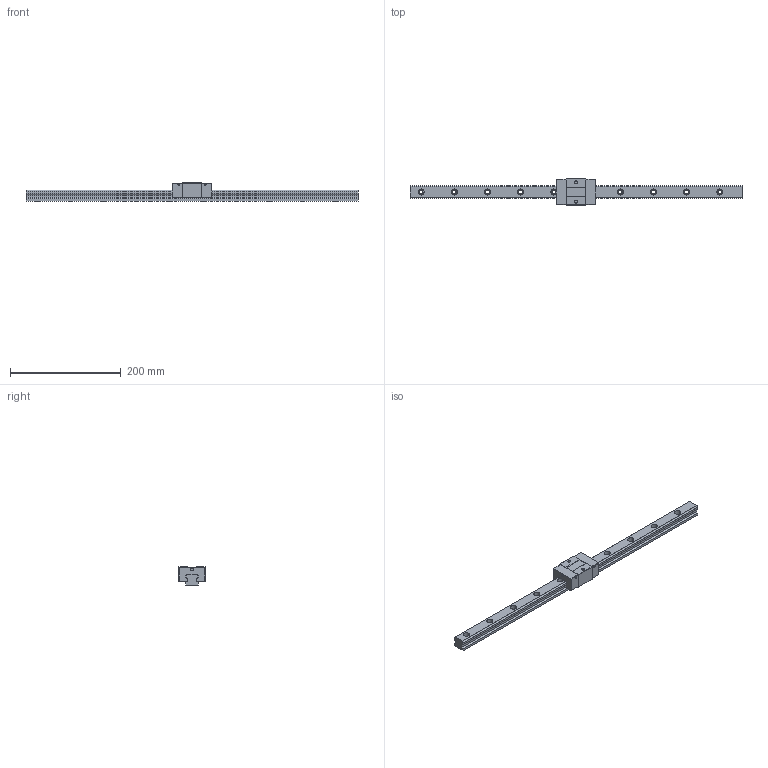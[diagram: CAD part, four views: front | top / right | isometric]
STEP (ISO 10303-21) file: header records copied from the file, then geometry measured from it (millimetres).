
FILE_DESCRIPTION (( 'STEP AP203' ), '1' );
FILE_NAME ('TRS25VS-SZ.STEP', '2024-07-11T08:26:24', ( '' ), ( '' ), 'SwSTEP 2.0', 'SolidWorks 2022', '' );
FILE_SCHEMA (( 'CONFIG_CONTROL_DESIGN' ));
Length unit declared in the file: millimetre
Products named in the file (1): TRS25VS-SZ
Bounding box: 600 x 48 x 33 mm (x, y, z)
Volume: 302938.3 mm3; surface area: 74314.1 mm2
Topology: 2 solids, 2 shells, 186 faces, 484 edges, 320 vertices
Faces by surface type: plane 94, cylinder 92
Entity records: 5863 total; most frequent: DIRECTION 1042, CARTESIAN_POINT 991, ORIENTED_EDGE 968, EDGE_CURVE 484, AXIS2_PLACEMENT_3D 371, VERTEX_POINT 320, VECTOR 300, LINE 300
